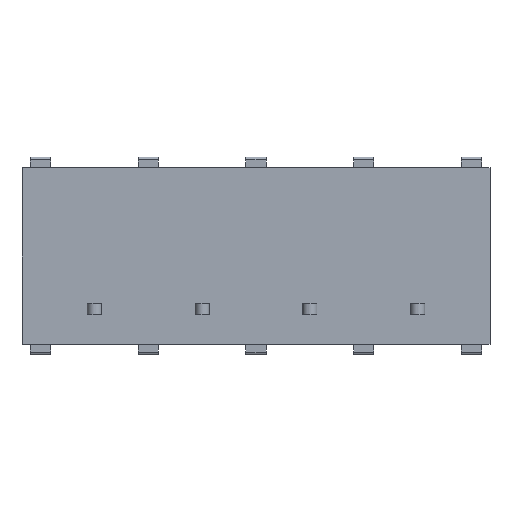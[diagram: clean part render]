
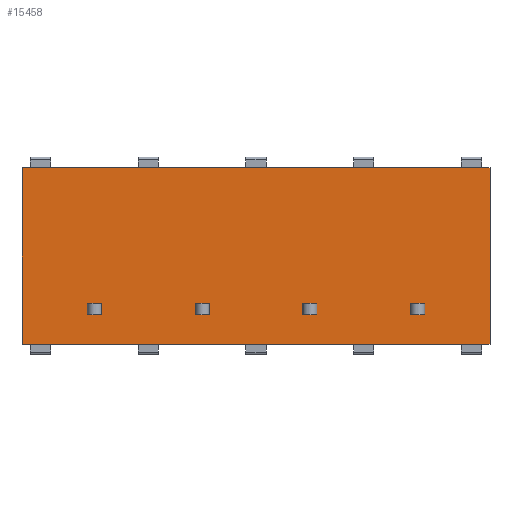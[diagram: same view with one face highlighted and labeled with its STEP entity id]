
A CAD part, front view. The second image highlights one B-rep face of the part: STEP entity #15458.
In plain terms, the highlighted planar face has unit normal (0, -1, 0).
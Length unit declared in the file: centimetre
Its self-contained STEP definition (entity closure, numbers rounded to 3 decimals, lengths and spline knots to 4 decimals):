
#985=VERTEX_POINT('',#19629);
#986=VERTEX_POINT('',#19630);
#989=VERTEX_POINT('',#19638);
#1006=VERTEX_POINT('',#19679);
#1341=VERTEX_POINT('',#21188);
#1342=VERTEX_POINT('',#21190);
#1510=VERTEX_POINT('',#21784);
#1511=VERTEX_POINT('',#21785);
#1518=VERTEX_POINT('',#21801);
#1532=VERTEX_POINT('',#21833);
#1713=VERTEX_POINT('',#22483);
#1714=VERTEX_POINT('',#22484);
#1721=VERTEX_POINT('',#22500);
#1735=VERTEX_POINT('',#22532);
#1916=VERTEX_POINT('',#23182);
#1917=VERTEX_POINT('',#23183);
#1924=VERTEX_POINT('',#23199);
#1938=VERTEX_POINT('',#23231);
#2368=VERTEX_POINT('',#25027);
#2369=VERTEX_POINT('',#25029);
#2504=VECTOR('',#16371,1.);
#2507=VECTOR('',#16377,1.);
#2526=VECTOR('',#16404,1.);
#2528=VECTOR('',#16407,1.);
#2931=VECTOR('',#16961,1.);
#3101=VECTOR('',#17352,1.);
#3109=VECTOR('',#17361,1.);
#3123=VECTOR('',#17381,1.);
#3126=VECTOR('',#17389,1.);
#3317=VECTOR('',#17823,1.);
#3325=VECTOR('',#17832,1.);
#3339=VECTOR('',#17852,1.);
#3342=VECTOR('',#17860,1.);
#3533=VECTOR('',#18294,1.);
#3541=VECTOR('',#18303,1.);
#3555=VECTOR('',#18323,1.);
#3558=VECTOR('',#18331,1.);
#4080=VECTOR('',#19110,1.);
#4084=VECTOR('',#19116,1.);
#4085=VECTOR('',#19118,1.);
#4224=LINE('',#19628,#2504);
#4227=LINE('',#19637,#2507);
#4246=LINE('',#19678,#2526);
#4248=LINE('',#19682,#2528);
#4651=LINE('',#21189,#2931);
#4821=LINE('',#21783,#3101);
#4829=LINE('',#21800,#3109);
#4843=LINE('',#21832,#3123);
#4846=LINE('',#21840,#3126);
#5037=LINE('',#22482,#3317);
#5045=LINE('',#22499,#3325);
#5059=LINE('',#22531,#3339);
#5062=LINE('',#22539,#3342);
#5253=LINE('',#23181,#3533);
#5261=LINE('',#23198,#3541);
#5275=LINE('',#23230,#3555);
#5278=LINE('',#23238,#3558);
#5800=LINE('',#25028,#4080);
#5804=LINE('',#25035,#4084);
#5805=LINE('',#25037,#4085);
#6019=EDGE_CURVE('',#985,#986,#4224,.T.);
#6023=EDGE_CURVE('',#986,#989,#4227,.T.);
#6043=EDGE_CURVE('',#989,#1006,#4246,.T.);
#6045=EDGE_CURVE('',#1006,#985,#4248,.T.);
#6556=EDGE_CURVE('',#1342,#1341,#4651,.T.);
#6813=EDGE_CURVE('',#1510,#1511,#4821,.T.);
#6821=EDGE_CURVE('',#1518,#1510,#4829,.T.);
#6836=EDGE_CURVE('',#1511,#1532,#4843,.T.);
#6840=EDGE_CURVE('',#1532,#1518,#4846,.T.);
#7122=EDGE_CURVE('',#1713,#1714,#5037,.T.);
#7130=EDGE_CURVE('',#1721,#1713,#5045,.T.);
#7145=EDGE_CURVE('',#1714,#1735,#5059,.T.);
#7149=EDGE_CURVE('',#1735,#1721,#5062,.T.);
#7431=EDGE_CURVE('',#1916,#1917,#5253,.T.);
#7439=EDGE_CURVE('',#1924,#1916,#5261,.T.);
#7454=EDGE_CURVE('',#1917,#1938,#5275,.T.);
#7458=EDGE_CURVE('',#1938,#1924,#5278,.T.);
#8112=EDGE_CURVE('',#2369,#2368,#5800,.T.);
#8116=EDGE_CURVE('',#1341,#2369,#5804,.T.);
#8117=EDGE_CURVE('',#1342,#2368,#5805,.T.);
#12696=ORIENTED_EDGE('',*,*,#6043,.F.);
#12697=ORIENTED_EDGE('',*,*,#6023,.F.);
#12698=ORIENTED_EDGE('',*,*,#6019,.F.);
#12699=ORIENTED_EDGE('',*,*,#6045,.F.);
#12700=ORIENTED_EDGE('',*,*,#6821,.T.);
#12701=ORIENTED_EDGE('',*,*,#6813,.T.);
#12702=ORIENTED_EDGE('',*,*,#6836,.T.);
#12703=ORIENTED_EDGE('',*,*,#6840,.T.);
#12704=ORIENTED_EDGE('',*,*,#7130,.T.);
#12705=ORIENTED_EDGE('',*,*,#7122,.T.);
#12706=ORIENTED_EDGE('',*,*,#7145,.T.);
#12707=ORIENTED_EDGE('',*,*,#7149,.T.);
#12708=ORIENTED_EDGE('',*,*,#7439,.T.);
#12709=ORIENTED_EDGE('',*,*,#7431,.T.);
#12710=ORIENTED_EDGE('',*,*,#7454,.T.);
#12711=ORIENTED_EDGE('',*,*,#7458,.T.);
#12712=ORIENTED_EDGE('',*,*,#8112,.T.);
#12713=ORIENTED_EDGE('',*,*,#8117,.F.);
#12714=ORIENTED_EDGE('',*,*,#6556,.T.);
#12715=ORIENTED_EDGE('',*,*,#8116,.T.);
#13666=EDGE_LOOP('',(#12696,#12697,#12698,#12699));
#13667=EDGE_LOOP('',(#12700,#12701,#12702,#12703));
#13668=EDGE_LOOP('',(#12704,#12705,#12706,#12707));
#13669=EDGE_LOOP('',(#12708,#12709,#12710,#12711));
#13670=EDGE_LOOP('',(#12712,#12713,#12714,#12715));
#14596=FACE_BOUND('',#13666,.T.);
#14597=FACE_BOUND('',#13667,.T.);
#14598=FACE_BOUND('',#13668,.T.);
#14599=FACE_BOUND('',#13669,.T.);
#14600=FACE_BOUND('',#13670,.T.);
#15458=ADVANCED_FACE('',(#14596,#14597,#14598,#14599,#14600),#16058,.T.);
#16058=PLANE('',#26016);
#16371=DIRECTION('',(-1.,0.,0.));
#16377=DIRECTION('',(0.,0.,-1.));
#16404=DIRECTION('',(1.,0.,0.));
#16407=DIRECTION('',(0.,0.,1.));
#16961=DIRECTION('',(0.,0.,1.));
#17352=DIRECTION('',(0.,0.,1.));
#17361=DIRECTION('',(-1.,0.,0.));
#17381=DIRECTION('',(1.,0.,0.));
#17389=DIRECTION('',(0.,0.,-1.));
#17823=DIRECTION('',(0.,0.,1.));
#17832=DIRECTION('',(-1.,0.,0.));
#17852=DIRECTION('',(1.,0.,0.));
#17860=DIRECTION('',(0.,0.,-1.));
#18294=DIRECTION('',(0.,0.,1.));
#18303=DIRECTION('',(-1.,0.,0.));
#18323=DIRECTION('',(1.,0.,0.));
#18331=DIRECTION('',(0.,0.,-1.));
#19110=DIRECTION('',(0.,0.,-1.));
#19116=DIRECTION('',(-1.,0.,0.));
#19117=DIRECTION('',(0.,-1.,0.));
#19118=DIRECTION('',(-1.,0.,0.));
#19628=CARTESIAN_POINT('',(-0.465,0.,-0.335));
#19629=CARTESIAN_POINT('',(-0.26,0.,-0.335));
#19630=CARTESIAN_POINT('',(-0.36,0.,-0.335));
#19637=CARTESIAN_POINT('',(-0.36,0.,-0.1875));
#19638=CARTESIAN_POINT('',(-0.36,0.,-0.415));
#19678=CARTESIAN_POINT('',(-0.465,0.,-0.415));
#19679=CARTESIAN_POINT('',(-0.26,0.,-0.415));
#19682=CARTESIAN_POINT('',(-0.26,0.,-0.1875));
#21188=CARTESIAN_POINT('',(2.488,0.,0.625));
#21189=CARTESIAN_POINT('',(2.488,0.,-0.625));
#21190=CARTESIAN_POINT('',(2.488,0.,-0.625));
#21783=CARTESIAN_POINT('',(1.926,0.,-0.1875));
#21784=CARTESIAN_POINT('',(1.926,0.,-0.415));
#21785=CARTESIAN_POINT('',(1.926,0.,-0.335));
#21800=CARTESIAN_POINT('',(0.988,0.,-0.415));
#21801=CARTESIAN_POINT('',(2.026,0.,-0.415));
#21832=CARTESIAN_POINT('',(0.988,0.,-0.335));
#21833=CARTESIAN_POINT('',(2.026,0.,-0.335));
#21840=CARTESIAN_POINT('',(2.026,0.,-0.1875));
#22482=CARTESIAN_POINT('',(1.164,0.,-0.1875));
#22483=CARTESIAN_POINT('',(1.164,0.,-0.415));
#22484=CARTESIAN_POINT('',(1.164,0.,-0.335));
#22499=CARTESIAN_POINT('',(0.607,0.,-0.415));
#22500=CARTESIAN_POINT('',(1.264,0.,-0.415));
#22531=CARTESIAN_POINT('',(0.607,0.,-0.335));
#22532=CARTESIAN_POINT('',(1.264,0.,-0.335));
#22539=CARTESIAN_POINT('',(1.264,0.,-0.1875));
#23181=CARTESIAN_POINT('',(0.402,0.,-0.1875));
#23182=CARTESIAN_POINT('',(0.402,0.,-0.415));
#23183=CARTESIAN_POINT('',(0.402,0.,-0.335));
#23198=CARTESIAN_POINT('',(0.226,0.,-0.415));
#23199=CARTESIAN_POINT('',(0.502,0.,-0.415));
#23230=CARTESIAN_POINT('',(0.226,0.,-0.335));
#23231=CARTESIAN_POINT('',(0.502,0.,-0.335));
#23238=CARTESIAN_POINT('',(0.502,0.,-0.1875));
#25027=CARTESIAN_POINT('',(-0.822,0.,-0.625));
#25028=CARTESIAN_POINT('',(-0.822,0.,0.625));
#25029=CARTESIAN_POINT('',(-0.822,0.,0.625));
#25035=CARTESIAN_POINT('',(-0.762,0.,0.625));
#25036=CARTESIAN_POINT('',(-0.762,0.,0.));
#25037=CARTESIAN_POINT('',(-0.762,0.,-0.625));
#26016=AXIS2_PLACEMENT_3D('',#25036,#19117,$);
